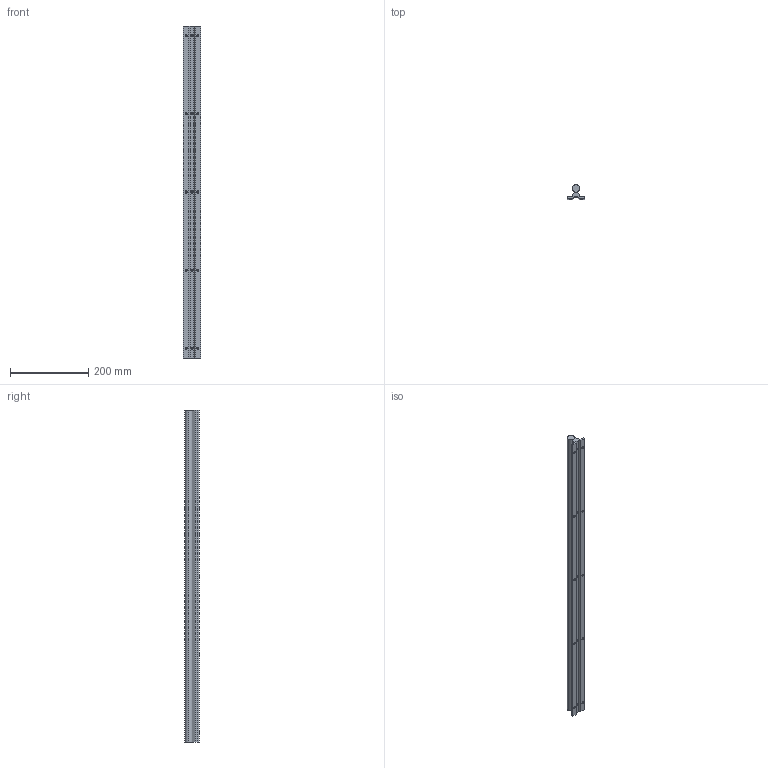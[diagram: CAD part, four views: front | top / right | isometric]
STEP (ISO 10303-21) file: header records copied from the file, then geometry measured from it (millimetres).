
FILE_DESCRIPTION (( 'STEP AP214' ), '1' );
FILE_NAME ('SBR20-850.STEP', '2025-09-17T14:40:50', ( '' ), ( '' ), 'SwSTEP 2.0', 'SolidWorks 2019', '' );
FILE_SCHEMA (( 'AUTOMOTIVE_DESIGN' ));
Length unit declared in the file: millimetre
Products named in the file (1): SBR20-850
Bounding box: 45 x 37 x 850 mm (x, y, z)
Volume: 561376.1 mm3; surface area: 163261.5 mm2
Topology: 2 solids, 2 shells, 80 faces, 218 edges, 142 vertices
Faces by surface type: cylinder 54, plane 26
Entity records: 2923 total; most frequent: CARTESIAN_POINT 761, DIRECTION 448, ORIENTED_EDGE 436, EDGE_CURVE 218, AXIS2_PLACEMENT_3D 169, VERTEX_POINT 142, VECTOR 110, EDGE_LOOP 110
